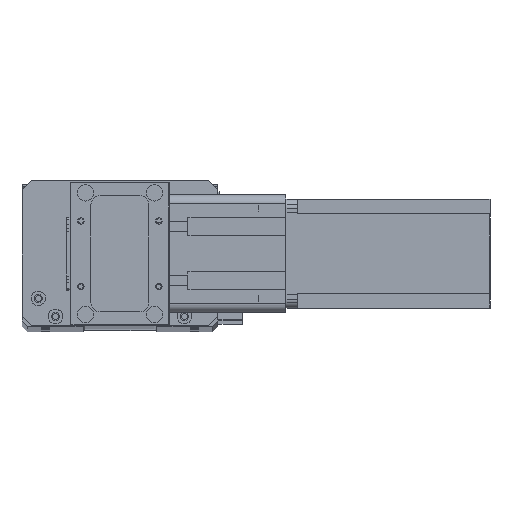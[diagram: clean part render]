
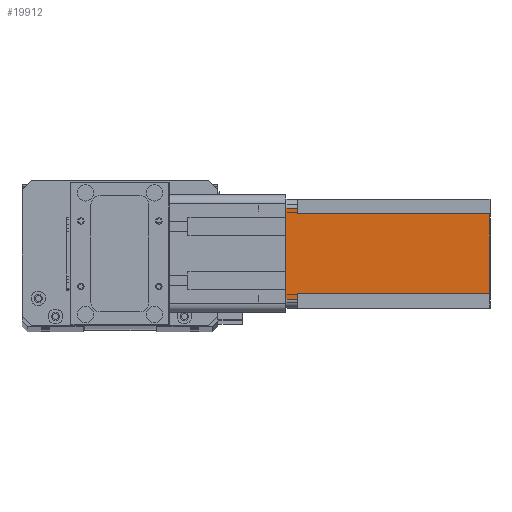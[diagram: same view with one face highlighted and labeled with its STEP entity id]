
A CAD part, top view. The second image highlights one B-rep face of the part: STEP entity #19912.
In plain terms, the highlighted planar face has unit normal (0, 0, 1) as drawn and (0, 1, 0) by its records, which use the part's own axes.
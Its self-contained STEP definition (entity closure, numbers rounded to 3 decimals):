
#23 = CARTESIAN_POINT ( 'NONE',  ( 52., 60., -6.5 ) ) ;
#484 = CARTESIAN_POINT ( 'NONE',  ( 8., 60., -6.5 ) ) ;
#536 = VERTEX_POINT ( 'NONE', #20754 ) ;
#1289 = VECTOR ( 'NONE', #20722, 1000. ) ;
#1460 = VECTOR ( 'NONE', #20532, 1000. ) ;
#1537 = CARTESIAN_POINT ( 'NONE',  ( 5., 60., 0. ) ) ;
#2156 = EDGE_CURVE ( 'NONE', #20565, #536, #14000, .T. ) ;
#2358 = VECTOR ( 'NONE', #13870, 1000. ) ;
#2661 = LINE ( 'NONE', #16282, #1289 ) ;
#2753 = LINE ( 'NONE', #5823, #3473 ) ;
#3307 = EDGE_CURVE ( 'NONE', #536, #11178, #26718, .T. ) ;
#3473 = VECTOR ( 'NONE', #19061, 1000. ) ;
#3538 = CARTESIAN_POINT ( 'NONE',  ( 8., 60., -6.5 ) ) ;
#3595 = ORIENTED_EDGE ( 'NONE', *, *, #18939, .T. ) ;
#4174 = CARTESIAN_POINT ( 'NONE',  ( 52., 60., -112.5 ) ) ;
#5462 = EDGE_CURVE ( 'NONE', #20565, #22019, #2753, .T. ) ;
#5823 = CARTESIAN_POINT ( 'NONE',  ( 8., 60., -112.5 ) ) ;
#5967 = CARTESIAN_POINT ( 'NONE',  ( 5., 60., -112.5 ) ) ;
#6220 = DIRECTION ( 'NONE',  ( 0., 0., 1. ) ) ;
#6976 = EDGE_CURVE ( 'NONE', #14768, #11178, #2661, .T. ) ;
#7530 = LINE ( 'NONE', #24450, #19289 ) ;
#7888 = EDGE_CURVE ( 'NONE', #24813, #22585, #24601, .T. ) ;
#8047 = LINE ( 'NONE', #18342, #1460 ) ;
#8140 = VECTOR ( 'NONE', #27064, 1000. ) ;
#8345 = PLANE ( 'NONE',  #17364 ) ;
#9043 = DIRECTION ( 'NONE',  ( -1., 0., 0. ) ) ;
#11178 = VERTEX_POINT ( 'NONE', #1537 ) ;
#11707 = ORIENTED_EDGE ( 'NONE', *, *, #5462, .F. ) ;
#13197 = CARTESIAN_POINT ( 'NONE',  ( 52., 60., -112.5 ) ) ;
#13870 = DIRECTION ( 'NONE',  ( 1., 0., 0. ) ) ;
#14000 = LINE ( 'NONE', #484, #8140 ) ;
#14148 = EDGE_CURVE ( 'NONE', #22585, #14471, #20487, .T. ) ;
#14471 = VERTEX_POINT ( 'NONE', #19276 ) ;
#14693 = EDGE_CURVE ( 'NONE', #24813, #22019, #7530, .T. ) ;
#14768 = VERTEX_POINT ( 'NONE', #27472 ) ;
#15005 = CARTESIAN_POINT ( 'NONE',  ( 0., 60., -112.5 ) ) ;
#16282 = CARTESIAN_POINT ( 'NONE',  ( 0., 60., 0. ) ) ;
#17364 = AXIS2_PLACEMENT_3D ( 'NONE', #15005, #19453, #6220 ) ;
#18336 = ORIENTED_EDGE ( 'NONE', *, *, #7888, .F. ) ;
#18342 = CARTESIAN_POINT ( 'NONE',  ( 55., 60., -112.5 ) ) ;
#18356 = FACE_OUTER_BOUND ( 'NONE', #28165, .T. ) ;
#18672 = ORIENTED_EDGE ( 'NONE', *, *, #2156, .T. ) ;
#18759 = VECTOR ( 'NONE', #26285, 1000. ) ;
#18939 = EDGE_CURVE ( 'NONE', #14768, #14471, #8047, .T. ) ;
#19061 = DIRECTION ( 'NONE',  ( 0., 0., -1. ) ) ;
#19276 = CARTESIAN_POINT ( 'NONE',  ( 55., 60., -6.5 ) ) ;
#19289 = VECTOR ( 'NONE', #9043, 1000. ) ;
#19453 = DIRECTION ( 'NONE',  ( 0., 1., 0. ) ) ;
#19912 = ADVANCED_FACE ( 'NONE', ( #18356 ), #8345, .T. ) ;
#20487 = LINE ( 'NONE', #27097, #2358 ) ;
#20532 = DIRECTION ( 'NONE',  ( 0., 0., -1. ) ) ;
#20565 = VERTEX_POINT ( 'NONE', #3538 ) ;
#20722 = DIRECTION ( 'NONE',  ( -1., 0., 0. ) ) ;
#20754 = CARTESIAN_POINT ( 'NONE',  ( 5., 60., -6.5 ) ) ;
#21743 = ORIENTED_EDGE ( 'NONE', *, *, #14693, .T. ) ;
#22019 = VERTEX_POINT ( 'NONE', #26533 ) ;
#22585 = VERTEX_POINT ( 'NONE', #23 ) ;
#23871 = ORIENTED_EDGE ( 'NONE', *, *, #6976, .F. ) ;
#24450 = CARTESIAN_POINT ( 'NONE',  ( 0., 60., -112.5 ) ) ;
#24601 = LINE ( 'NONE', #4174, #18759 ) ;
#24813 = VERTEX_POINT ( 'NONE', #13197 ) ;
#24855 = ORIENTED_EDGE ( 'NONE', *, *, #3307, .T. ) ;
#24976 = ORIENTED_EDGE ( 'NONE', *, *, #14148, .F. ) ;
#25843 = DIRECTION ( 'NONE',  ( 0., 0., 1. ) ) ;
#26043 = VECTOR ( 'NONE', #25843, 1000. ) ;
#26285 = DIRECTION ( 'NONE',  ( 0., 0., 1. ) ) ;
#26533 = CARTESIAN_POINT ( 'NONE',  ( 8., 60., -112.5 ) ) ;
#26718 = LINE ( 'NONE', #5967, #26043 ) ;
#27064 = DIRECTION ( 'NONE',  ( -1., 0., 0. ) ) ;
#27097 = CARTESIAN_POINT ( 'NONE',  ( 52., 60., -6.5 ) ) ;
#27472 = CARTESIAN_POINT ( 'NONE',  ( 55., 60., 0. ) ) ;
#28165 = EDGE_LOOP ( 'NONE', ( #23871, #3595, #24976, #18336, #21743, #11707, #18672, #24855 ) ) ;
